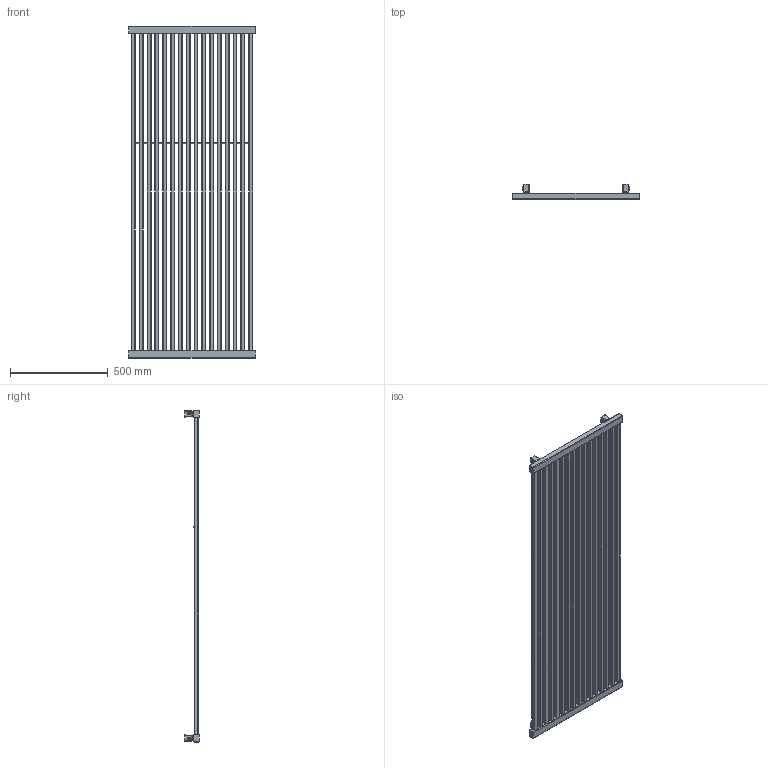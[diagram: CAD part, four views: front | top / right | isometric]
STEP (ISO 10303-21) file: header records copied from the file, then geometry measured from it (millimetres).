
FILE_DESCRIPTION((''),'2;1');
FILE_NAME('Z:\R\G\P\RGPH04 - Grzejnik Intra\Work\Inventor\Marketing\STEP\IN 17-65-ZX.stp','2012-07-25T15:31:38',('PioRo'),(''),'Autodesk Inventor 2012','Autodesk Inventor 2012','');
FILE_SCHEMA(('CONFIG_CONTROL_DESIGN'));
Length unit declared in the file: millimetre
Products named in the file (1): Część4
Bounding box: 650 x 74.5 x 1700 mm (x, y, z)
Volume: 11985224 mm3; surface area: 2188992.2 mm2
Topology: 9 solids, 9 shells, 386 faces, 953 edges, 600 vertices
Faces by surface type: cylinder 159, plane 157, bspline 48, torus 19, cone 3
Full cylindrical faces by diameter (mm): 10 x3, 18.631 x3
Entity records: 13055 total; most frequent: CARTESIAN_POINT 3529, ORIENTED_EDGE 1880, DIRECTION 1862, EDGE_CURVE 940, AXIS2_PLACEMENT_3D 679, VERTEX_POINT 600, VECTOR 504, LINE 504
